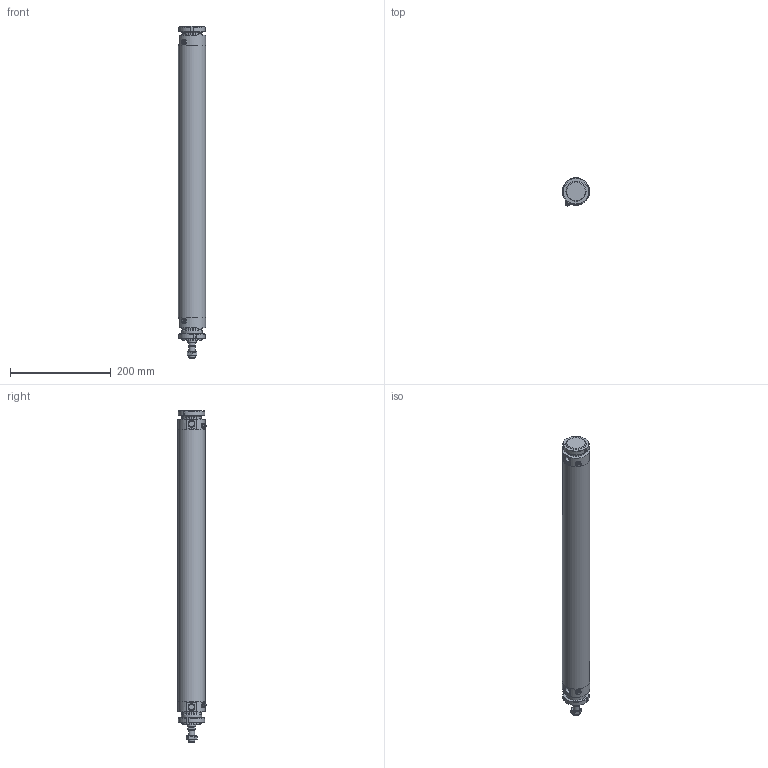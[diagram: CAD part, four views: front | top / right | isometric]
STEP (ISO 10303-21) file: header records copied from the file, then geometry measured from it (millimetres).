
FILE_DESCRIPTION(/* description */ (''),/* implementation_level */ '2;1');
FILE_NAME(/* name */ 'I:\Area Tecnica\Documenti\A-Manieri\_Inventor\12X\12X#C_###_####_#_#\12XBC_050_0500_#_#.stp',/* time_stamp */ '2015-04-28T15:41:20+02:00',/* author */ ('maniean1'),/* organization */ ('Pneumax S.p.A.'),/* preprocessor_version */ 'ST-DEVELOPER v15.2',/* originating_system */ 'Autodesk Inventor 2014',/* authorisation */ '');
FILE_SCHEMA (('AUTOMOTIVE_DESIGN { 1 0 10303 214 3 1 1 }'));
Length unit declared in the file: millimetre
Products named in the file (7): C1250_619-0500; 12X50_606; S12X50_0500; 12X_50_11; 12X50_621; G12X_050_05; 12XBC_050_0500_#_#
Bounding box: 54 x 55.88 x 660 mm (x, y, z)
Volume: 526026.4 mm3; surface area: 250519.3 mm2
Topology: 7 solids, 7 shells, 124 faces, 282 edges, 182 vertices
Faces by surface type: plane 64, cylinder 31, cone 27, torus 2
Full cylindrical faces by diameter (mm): 5 x2, 10.2 x1, 11 x2, 11.4 x2, 12 x2, 14 x1, 15.6 x1, 16 x1, 38.2 x2, 40 x6, 50 x2, 54 x3
Entity records: 2755 total; most frequent: CARTESIAN_POINT 553, DIRECTION 462, ORIENTED_EDGE 356, AXIS2_PLACEMENT_3D 197, EDGE_CURVE 178, EDGE_LOOP 160, VERTEX_POINT 136, ADVANCED_FACE 103
